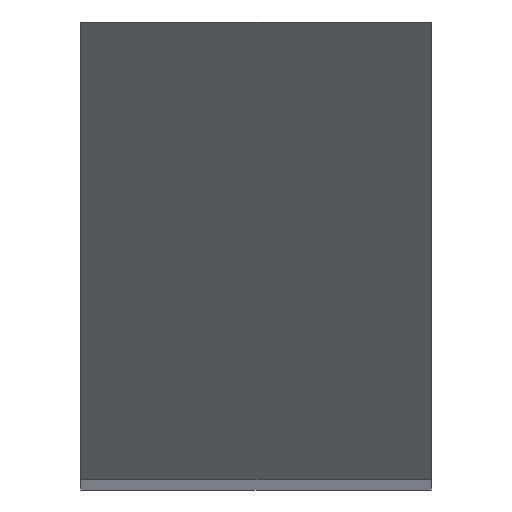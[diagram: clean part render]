
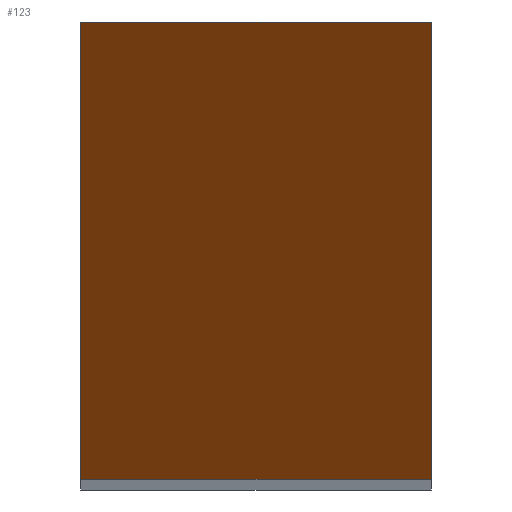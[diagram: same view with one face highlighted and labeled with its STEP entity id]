
A CAD part, left-side view. The second image highlights one B-rep face of the part: STEP entity #123.
In plain terms, the highlighted planar face has unit normal (-0.414, 0, -0.91).
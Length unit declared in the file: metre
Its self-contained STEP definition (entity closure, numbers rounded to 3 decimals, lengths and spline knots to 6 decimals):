
#34=ORIENTED_EDGE('',*,*,#47,.T.);
#35=ORIENTED_EDGE('',*,*,#56,.T.);
#36=ORIENTED_EDGE('',*,*,#50,.T.);
#37=ORIENTED_EDGE('',*,*,#54,.F.);
#47=EDGE_CURVE('',#63,#61,#72,.T.);
#50=EDGE_CURVE('',#64,#65,#75,.T.);
#54=EDGE_CURVE('',#63,#65,#79,.T.);
#56=EDGE_CURVE('',#61,#64,#81,.T.);
#61=VERTEX_POINT('',#188);
#63=VERTEX_POINT('',#191);
#64=VERTEX_POINT('',#196);
#65=VERTEX_POINT('',#197);
#72=LINE('',#190,#87);
#75=LINE('',#195,#90);
#79=LINE('',#203,#94);
#81=LINE('',#207,#96);
#87=VECTOR('',#156,1.);
#90=VECTOR('',#161,1.);
#94=VECTOR('',#167,1.);
#96=VECTOR('',#173,1.);
#102=EDGE_LOOP('',(#34,#35,#36,#37));
#109=FACE_BOUND('',#102,.T.);
#116=PLANE('',#143);
#123=ADVANCED_FACE('',(#109),#116,.F.);
#143=AXIS2_PLACEMENT_3D('',#206,#171,#172);
#156=DIRECTION('',(0.91,0.,-0.414));
#161=DIRECTION('',(-0.91,0.,0.414));
#167=DIRECTION('',(0.,-1.,0.));
#171=DIRECTION('',(0.414,0.,0.91));
#172=DIRECTION('',(0.91,0.,-0.414));
#173=DIRECTION('',(0.,-1.,0.));
#188=CARTESIAN_POINT('',(-0.050129,0.0635,-0.024818));
#190=CARTESIAN_POINT('',(-0.069786,0.0635,-0.015875));
#191=CARTESIAN_POINT('',(-0.104679,0.0635,0.));
#195=CARTESIAN_POINT('',(-0.069786,0.04445,-0.015875));
#196=CARTESIAN_POINT('',(-0.050129,0.04445,-0.024818));
#197=CARTESIAN_POINT('',(-0.104679,0.04445,0.));
#203=CARTESIAN_POINT('',(-0.104679,0.0635,0.));
#206=CARTESIAN_POINT('',(-0.069786,0.044448,-0.015875));
#207=CARTESIAN_POINT('',(-0.050129,0.044448,-0.024818));
